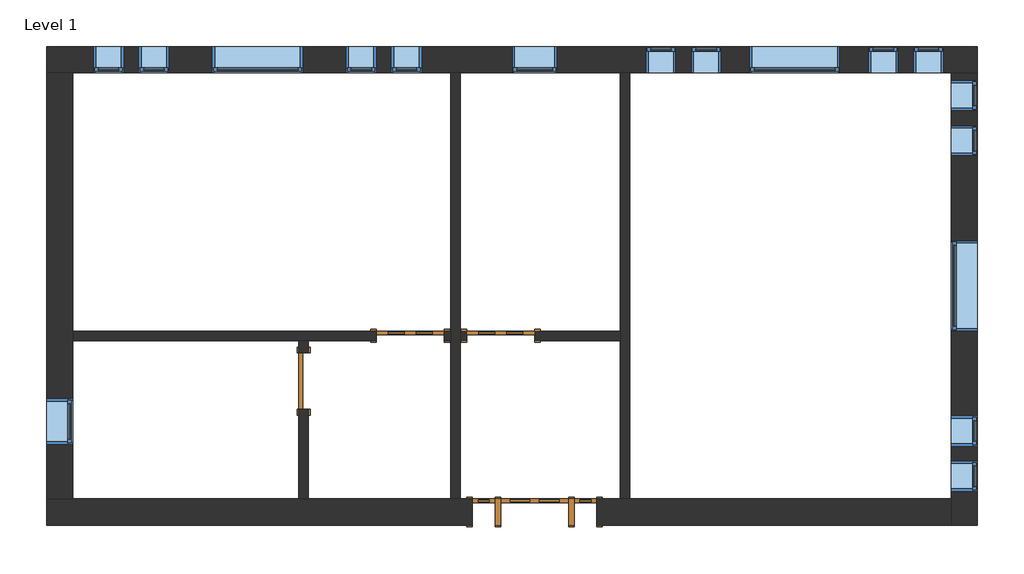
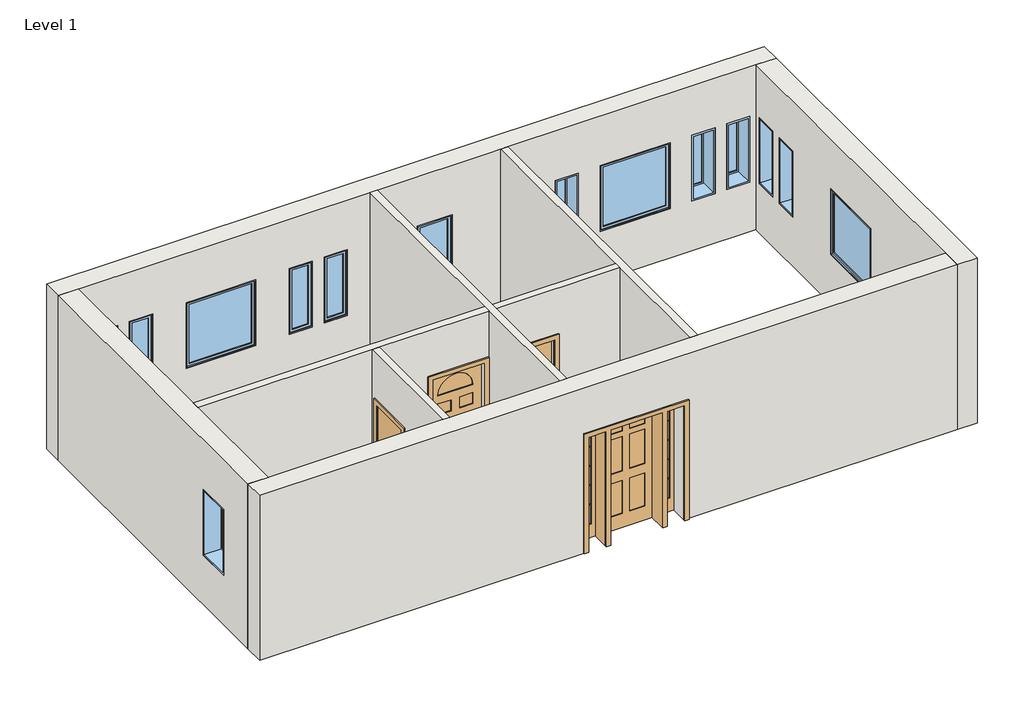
# One storey: 17 windows, 9 walls, 4 doors.
"""IFC4 building model written with IfcOpenShell, lengths in millimetres."""

from ifc_helpers import new_model, si_unit, frame, origin, place, context, project, spatial, polyline, outline, extrude, faceted_brep, transform, mapped, element, save
from components import door_829da954, door_2e3b4da2, door_4d6c7550, door_dba5aa2e, window_da97879f, window_d61ef850, window_60baf983, window_6eb97611

model = new_model("IFC4")

# Units and contexts
model_context = context("Model", 3, world=origin())
ifc_project = project(units=[si_unit("LENGTHUNIT", "METRE", prefix="MILLI")], contexts=[model_context])

# Site, building, storey
site = spatial("IfcSite", under=ifc_project)
building = spatial("IfcBuilding", under=site)
storey = spatial("IfcBuildingStorey", under=building, Name="Level 1", Elevation=0.0)

# Doors
placement = place(None, origin())
door_shape = door_829da954(model_context)
element("IfcDoor", 1, ObjectType="Single-Decorative 2 : 36\" x 84\"", at=placement, inside=storey, context=model_context, shape_type="MappedRepresentation", body=[
    mapped(door_shape, transform((-5449.8589563, 6723.5441867, 0.0), x_axis=(-1.0, 0.0, 0.0), y_axis=(0.0, -1.0, 0.0), z_axis=(0.0, 0.0, 1.0))),
])
door_2_shape = door_2e3b4da2(model_context)
element("IfcDoor", 2, ObjectType="Single-Decorative 2 : 36\" x 84\"", at=placement, inside=storey, context=model_context, shape_type="MappedRepresentation", body=[
    mapped(door_2_shape, transform((-6669.0589563, 6723.5441867, 0.0), x_axis=(1.0, 0.0, 0.0), y_axis=(0.0, 1.0, 0.0), z_axis=(0.0, 0.0, 1.0))),
])
door_3_shape = door_4d6c7550(model_context)
element("IfcDoor", 3, ObjectType="Single-Flush : 30\" x 84\"", at=placement, inside=storey, context=model_context, shape_type="MappedRepresentation", body=[
    mapped(door_3_shape, transform((-8105.7464563, 6113.9441867, 0.0), x_axis=(0.0, 1.0, 0.0), y_axis=(-1.0, 0.0, 0.0), z_axis=(0.0, 0.0, 1.0))),
])
door_4_shape = door_dba5aa2e(model_context)
element("IfcDoor", 4, ObjectType="Single-Raised Panel with Sidelights : 36\" x 84\"", at=placement, inside=storey, context=model_context, shape_type="MappedRepresentation", body=[
    mapped(door_4_shape, transform((-4992.6589563, 4350.2316867, 0.0), x_axis=(-1.0, 0.0, 0.0), y_axis=(0.0, -1.0, 0.0), z_axis=(0.0, 0.0, 1.0))),
])

# Walls
element("IfcWall", 5, ObjectType="Exterior - Brick on Mtl. Stud", at=placement, inside=storey, context=model_context, shape_type="Brep", body=[
    faceted_brep([(974.7535437, 10270.0191867, 0.0), (622.3285437, 10270.0191867, 0.0), (-3709.9589563, 10270.0191867, 0.0), (-3836.9589563, 10270.0191867, 0.0), (-5995.9589563, 10270.0191867, 0.0), (-6122.9589563, 10270.0191867, 0.0), (-11217.2464563, 10270.0191867, 0.0), (-11569.6714563, 10270.0191867, 0.0), (-11569.6714563, 10622.4441867, 0.0), (974.7535437, 10622.4441867, 0.0), (-11569.6714563, 10270.0191867, 3048.0), (-11217.2464563, 10270.0191867, 3048.0), (-6122.9589563, 10270.0191867, 3048.0), (-5995.9589563, 10270.0191867, 3048.0), (-3836.9589563, 10270.0191867, 3048.0), (-3709.9589563, 10270.0191867, 3048.0), (622.3285437, 10270.0191867, 3048.0), (974.7535437, 10270.0191867, 3048.0), (974.7535437, 10622.4441867, 3048.0), (-11569.6714563, 10622.4441867, 3048.0), (112.7410437, 10270.0191867, 2133.6), (519.1410437, 10270.0191867, 2133.6), (519.1410437, 10270.0191867, 914.4), (112.7410437, 10270.0191867, 914.4), (-496.8589563, 10270.0191867, 2133.6), (-90.4589563, 10270.0191867, 2133.6), (-90.4589563, 10270.0191867, 914.4), (-496.8589563, 10270.0191867, 914.4), (-3087.6589563, 10270.0191867, 2133.6), (-3087.6589563, 10270.0191867, 914.4), (-3494.0589563, 10270.0191867, 914.4), (-3494.0589563, 10270.0191867, 2133.6), (-2478.0589563, 10270.0191867, 2133.6), (-2478.0589563, 10270.0191867, 914.4), (-2884.4589563, 10270.0191867, 914.4), (-2884.4589563, 10270.0191867, 2133.6), (-7126.2589563, 10270.0191867, 2133.6), (-7126.2589563, 10270.0191867, 914.4), (-7532.6589563, 10270.0191867, 914.4), (-7532.6589563, 10270.0191867, 2133.6), (-6516.6589563, 10270.0191867, 2133.6), (-6516.6589563, 10270.0191867, 914.4), (-6923.0589563, 10270.0191867, 914.4), (-6923.0589563, 10270.0191867, 2133.6), (-10326.6589563, 10270.0191867, 2133.6), (-9920.2589563, 10270.0191867, 2133.6), (-9920.2589563, 10270.0191867, 914.4), (-10326.6589563, 10270.0191867, 914.4), (-10936.2589563, 10270.0191867, 2133.6), (-10529.8589563, 10270.0191867, 2133.6), (-10529.8589563, 10270.0191867, 914.4), (-10936.2589563, 10270.0191867, 914.4), (-2097.0589563, 10270.0191867, 2133.6), (-877.8589563, 10270.0191867, 2133.6), (-877.8589563, 10270.0191867, 914.4), (-2097.0589563, 10270.0191867, 914.4), (-9336.0589563, 10270.0191867, 2133.6), (-8116.8589563, 10270.0191867, 2133.6), (-8116.8589563, 10270.0191867, 914.4), (-9336.0589563, 10270.0191867, 914.4), (-5297.4589563, 10270.0191867, 2133.6), (-4687.8589563, 10270.0191867, 2133.6), (-4687.8589563, 10270.0191867, 914.4), (-5297.4589563, 10270.0191867, 914.4), (112.7410437, 10622.4441867, 2133.6), (112.7410437, 10622.4441867, 914.4), (519.1410437, 10622.4441867, 914.4), (519.1410437, 10622.4441867, 2133.6), (-496.8589563, 10622.4441867, 2133.6), (-496.8589563, 10622.4441867, 914.4), (-90.4589563, 10622.4441867, 914.4), (-90.4589563, 10622.4441867, 2133.6), (-3087.6589563, 10622.4441867, 2133.6), (-3494.0589563, 10622.4441867, 2133.6), (-3494.0589563, 10622.4441867, 914.4), (-3087.6589563, 10622.4441867, 914.4), (-2478.0589563, 10622.4441867, 2133.6), (-2884.4589563, 10622.4441867, 2133.6), (-2884.4589563, 10622.4441867, 914.4), (-2478.0589563, 10622.4441867, 914.4), (-7126.2589563, 10622.4441867, 2133.6), (-7532.6589563, 10622.4441867, 2133.6), (-7532.6589563, 10622.4441867, 914.4), (-7126.2589563, 10622.4441867, 914.4), (-6516.6589563, 10622.4441867, 2133.6), (-6923.0589563, 10622.4441867, 2133.6), (-6923.0589563, 10622.4441867, 914.4), (-6516.6589563, 10622.4441867, 914.4), (-10326.6589563, 10622.4441867, 2133.6), (-10326.6589563, 10622.4441867, 914.4), (-9920.2589563, 10622.4441867, 914.4), (-9920.2589563, 10622.4441867, 2133.6), (-10936.2589563, 10622.4441867, 2133.6), (-10936.2589563, 10622.4441867, 914.4), (-10529.8589563, 10622.4441867, 914.4), (-10529.8589563, 10622.4441867, 2133.6), (-2097.0589563, 10622.4441867, 2133.6), (-2097.0589563, 10622.4441867, 914.4), (-877.8589563, 10622.4441867, 914.4), (-877.8589563, 10622.4441867, 2133.6), (-9336.0589563, 10622.4441867, 2133.6), (-9336.0589563, 10622.4441867, 914.4), (-8116.8589563, 10622.4441867, 914.4), (-8116.8589563, 10622.4441867, 2133.6), (-5297.4589563, 10622.4441867, 2133.6), (-5297.4589563, 10622.4441867, 914.4), (-4687.8589563, 10622.4441867, 914.4), (-4687.8589563, 10622.4441867, 2133.6)], [[[0, 1, 2, 3, 4, 5, 6, 7, 8, 9]], [[10, 11, 12, 13, 14, 15, 16, 17, 18, 19]], [[7, 6, 5, 4, 3, 2, 1, 0, 17, 16, 15, 14, 13, 12, 11, 10], [20, 21, 22, 23], [24, 25, 26, 27], [28, 29, 30, 31], [32, 33, 34, 35], [36, 37, 38, 39], [40, 41, 42, 43], [44, 45, 46, 47], [48, 49, 50, 51], [52, 53, 54, 55], [56, 57, 58, 59], [60, 61, 62, 63]], [[8, 19, 18, 9], [64, 65, 66, 67], [68, 69, 70, 71], [72, 73, 74, 75], [76, 77, 78, 79], [80, 81, 82, 83], [84, 85, 86, 87], [88, 89, 90, 91], [92, 93, 94, 95], [96, 97, 98, 99], [100, 101, 102, 103], [104, 105, 106, 107]], [[17, 0, 9, 18]], [[7, 10, 19, 8]], [[65, 64, 20, 23]], [[66, 65, 23, 22]], [[67, 66, 22, 21]], [[64, 67, 21, 20]], [[69, 68, 24, 27]], [[70, 69, 27, 26]], [[71, 70, 26, 25]], [[68, 71, 25, 24]], [[29, 28, 72, 75]], [[30, 29, 75, 74]], [[31, 30, 74, 73]], [[28, 31, 73, 72]], [[33, 32, 76, 79]], [[34, 33, 79, 78]], [[35, 34, 78, 77]], [[32, 35, 77, 76]], [[37, 36, 80, 83]], [[38, 37, 83, 82]], [[39, 38, 82, 81]], [[36, 39, 81, 80]], [[41, 40, 84, 87]], [[42, 41, 87, 86]], [[43, 42, 86, 85]], [[40, 43, 85, 84]], [[89, 88, 44, 47]], [[90, 89, 47, 46]], [[91, 90, 46, 45]], [[88, 91, 45, 44]], [[93, 92, 48, 51]], [[94, 93, 51, 50]], [[95, 94, 50, 49]], [[92, 95, 49, 48]], [[97, 96, 52, 55]], [[98, 97, 55, 54]], [[99, 98, 54, 53]], [[96, 99, 53, 52]], [[101, 100, 56, 59]], [[102, 101, 59, 58]], [[103, 102, 58, 57]], [[100, 103, 57, 56]], [[105, 104, 60, 63]], [[106, 105, 63, 62]], [[107, 106, 62, 61]], [[104, 107, 61, 60]]]),
])
element("IfcWall", 6, ObjectType="Exterior - Brick on Mtl. Stud", at=placement, inside=storey, context=model_context, shape_type="Brep", body=[
    faceted_brep([(622.3285437, 4174.0191867, 0.0), (622.3285437, 4526.4441867, 0.0), (622.3285437, 10270.0191867, 0.0), (974.7535437, 10270.0191867, 0.0), (974.7535437, 4174.0191867, 0.0), (622.3285437, 10270.0191867, 3048.0), (622.3285437, 4526.4441867, 3048.0), (622.3285437, 4174.0191867, 3048.0), (974.7535437, 4174.0191867, 3048.0), (974.7535437, 10270.0191867, 3048.0), (622.3285437, 5036.0316867, 2133.6), (622.3285437, 4629.6316867, 2133.6), (622.3285437, 4629.6316867, 914.4), (622.3285437, 5036.0316867, 914.4), (622.3285437, 5645.6316867, 2133.6), (622.3285437, 5239.2316867, 2133.6), (622.3285437, 5239.2316867, 914.4), (622.3285437, 5645.6316867, 914.4), (622.3285437, 9760.4316867, 2133.6), (622.3285437, 9760.4316867, 914.4), (622.3285437, 10166.8316867, 914.4), (622.3285437, 10166.8316867, 2133.6), (622.3285437, 9150.8316867, 2133.6), (622.3285437, 9150.8316867, 914.4), (622.3285437, 9557.2316867, 914.4), (622.3285437, 9557.2316867, 2133.6), (622.3285437, 8007.8316867, 2133.6), (622.3285437, 6788.6316867, 2133.6), (622.3285437, 6788.6316867, 914.4), (622.3285437, 8007.8316867, 914.4), (974.7535437, 5036.0316867, 2133.6), (974.7535437, 5036.0316867, 914.4), (974.7535437, 4629.6316867, 914.4), (974.7535437, 4629.6316867, 2133.6), (974.7535437, 5645.6316867, 2133.6), (974.7535437, 5645.6316867, 914.4), (974.7535437, 5239.2316867, 914.4), (974.7535437, 5239.2316867, 2133.6), (974.7535437, 9760.4316867, 2133.6), (974.7535437, 10166.8316867, 2133.6), (974.7535437, 10166.8316867, 914.4), (974.7535437, 9760.4316867, 914.4), (974.7535437, 9150.8316867, 2133.6), (974.7535437, 9557.2316867, 2133.6), (974.7535437, 9557.2316867, 914.4), (974.7535437, 9150.8316867, 914.4), (974.7535437, 8007.8316867, 2133.6), (974.7535437, 8007.8316867, 914.4), (974.7535437, 6788.6316867, 914.4), (974.7535437, 6788.6316867, 2133.6)], [[[0, 1, 2, 3, 4]], [[5, 6, 7, 8, 9]], [[2, 1, 0, 7, 6, 5], [10, 11, 12, 13], [14, 15, 16, 17], [18, 19, 20, 21], [22, 23, 24, 25], [26, 27, 28, 29]], [[3, 9, 8, 4], [30, 31, 32, 33], [34, 35, 36, 37], [38, 39, 40, 41], [42, 43, 44, 45], [46, 47, 48, 49]], [[2, 5, 9, 3]], [[7, 0, 4, 8]], [[31, 30, 10, 13]], [[32, 31, 13, 12]], [[33, 32, 12, 11]], [[30, 33, 11, 10]], [[35, 34, 14, 17]], [[36, 35, 17, 16]], [[37, 36, 16, 15]], [[34, 37, 15, 14]], [[19, 18, 38, 41]], [[20, 19, 41, 40]], [[21, 20, 40, 39]], [[18, 21, 39, 38]], [[23, 22, 42, 45]], [[24, 23, 45, 44]], [[25, 24, 44, 43]], [[22, 25, 43, 42]], [[47, 46, 26, 29]], [[48, 47, 29, 28]], [[49, 48, 28, 27]], [[46, 49, 27, 26]]]),
])
element("IfcWall", 7, ObjectType="Exterior - Brick on Mtl. Stud", at=placement, inside=storey, context=model_context, shape_type="Brep", body=[
    faceted_brep([(-11569.6714563, 4526.4441867, 0.0), (-11217.2464563, 4526.4441867, 0.0), (-8169.2464563, 4526.4441867, 0.0), (-8042.2464563, 4526.4441867, 0.0), (-6122.9589563, 4526.4441867, 0.0), (-5995.9589563, 4526.4441867, 0.0), (-5830.8589563, 4526.4441867, 0.0), (-5830.8589563, 4174.0191867, 0.0), (-11569.6714563, 4174.0191867, 0.0), (-4154.4589563, 4526.4441867, 0.0), (-3836.9589563, 4526.4441867, 0.0), (-3709.9589563, 4526.4441867, 0.0), (622.3285437, 4526.4441867, 0.0), (622.3285437, 4174.0191867, 0.0), (-4154.4589563, 4174.0191867, 0.0), (622.3285437, 4526.4441867, 3048.0), (-3709.9589563, 4526.4441867, 3048.0), (-3836.9589563, 4526.4441867, 3048.0), (-5995.9589563, 4526.4441867, 3048.0), (-6122.9589563, 4526.4441867, 3048.0), (-8042.2464563, 4526.4441867, 3048.0), (-8169.2464563, 4526.4441867, 3048.0), (-11217.2464563, 4526.4441867, 3048.0), (-11569.6714563, 4526.4441867, 3048.0), (-11569.6714563, 4174.0191867, 3048.0), (622.3285437, 4174.0191867, 3048.0), (-5830.8589563, 4526.4441867, 2133.6), (-4154.4589563, 4526.4441867, 2133.6), (-5830.8589563, 4174.0191867, 2133.6), (-4154.4589563, 4174.0191867, 2133.6)], [[[0, 1, 2, 3, 4, 5, 6, 7, 8]], [[9, 10, 11, 12, 13, 14]], [[15, 16, 17, 18, 19, 20, 21, 22, 23, 24, 25]], [[26, 6, 5, 4, 3, 2, 1, 0, 23, 22, 21, 20, 19, 18, 17, 16, 15, 12, 11, 10, 9, 27]], [[8, 7, 28, 29, 14, 13, 25, 24]], [[12, 15, 25, 13]], [[23, 0, 8, 24]], [[28, 7, 6, 26]], [[29, 28, 26, 27]], [[14, 29, 27, 9]]]),
])
element("IfcWall", 8, ObjectType="Exterior - Brick on Mtl. Stud", at=placement, inside=storey, context=model_context, shape_type="Brep", body=[
    faceted_brep([(-11217.2464563, 10270.0191867, 0.0), (-11217.2464563, 6787.0441867, 0.0), (-11217.2464563, 6660.0441867, 0.0), (-11217.2464563, 4526.4441867, 0.0), (-11569.6714563, 4526.4441867, 0.0), (-11569.6714563, 10270.0191867, 0.0), (-11217.2464563, 4526.4441867, 3048.0), (-11217.2464563, 6660.0441867, 3048.0), (-11217.2464563, 6787.0441867, 3048.0), (-11217.2464563, 10270.0191867, 3048.0), (-11569.6714563, 10270.0191867, 3048.0), (-11569.6714563, 4526.4441867, 3048.0), (-11217.2464563, 5264.6316867, 2133.6), (-11217.2464563, 5874.2316867, 2133.6), (-11217.2464563, 5874.2316867, 914.4), (-11217.2464563, 5264.6316867, 914.4), (-11569.6714563, 5264.6316867, 2133.6), (-11569.6714563, 5264.6316867, 914.4), (-11569.6714563, 5874.2316867, 914.4), (-11569.6714563, 5874.2316867, 2133.6)], [[[0, 1, 2, 3, 4, 5]], [[6, 7, 8, 9, 10, 11]], [[3, 2, 1, 0, 9, 8, 7, 6], [12, 13, 14, 15]], [[4, 11, 10, 5], [16, 17, 18, 19]], [[3, 6, 11, 4]], [[9, 0, 5, 10]], [[17, 16, 12, 15]], [[18, 17, 15, 14]], [[19, 18, 14, 13]], [[16, 19, 13, 12]]]),
])
element("IfcWall", 9, ObjectType="Interior - 5\" Partition (2-hr)", at=placement, inside=storey, context=model_context, shape_type="Brep", body=[
    faceted_brep([(-3836.9589563, 10270.0191867, 0.0), (-3836.9589563, 6787.0441867, 0.0), (-3836.9589563, 6660.0441867, 0.0), (-3836.9589563, 4526.4441867, 0.0), (-3836.9589563, 4526.4441867, 3048.0), (-3836.9589563, 6660.0441867, 3048.0), (-3836.9589563, 6787.0441867, 3048.0), (-3836.9589563, 10270.0191867, 3048.0), (-3709.9589563, 10270.0191867, 0.0), (-3709.9589563, 10270.0191867, 3048.0), (-3709.9589563, 4526.4441867, 3048.0), (-3709.9589563, 4526.4441867, 0.0)], [[[0, 1, 2, 3, 4, 5, 6, 7]], [[8, 9, 10, 11]], [[3, 2, 1, 0, 8, 11]], [[7, 6, 5, 4, 10, 9]], [[0, 7, 9, 8]], [[4, 3, 11, 10]]]),
])
element("IfcWall", 10, ObjectType="Interior - 5\" Partition (2-hr)", at=placement, inside=storey, context=model_context, shape_type="Brep", body=[
    faceted_brep([(-6122.9589563, 10270.0191867, 0.0), (-6122.9589563, 6787.0441867, 0.0), (-6122.9589563, 6660.0441867, 0.0), (-6122.9589563, 4526.4441867, 0.0), (-6122.9589563, 4526.4441867, 3048.0), (-6122.9589563, 6660.0441867, 3048.0), (-6122.9589563, 6787.0441867, 3048.0), (-6122.9589563, 10270.0191867, 3048.0), (-5995.9589563, 10270.0191867, 0.0), (-5995.9589563, 10270.0191867, 3048.0), (-5995.9589563, 6787.0441867, 3048.0), (-5995.9589563, 6660.0441867, 3048.0), (-5995.9589563, 4526.4441867, 3048.0), (-5995.9589563, 4526.4441867, 0.0), (-5995.9589563, 6660.0441867, 0.0), (-5995.9589563, 6787.0441867, 0.0)], [[[0, 1, 2, 3, 4, 5, 6, 7]], [[8, 9, 10, 11, 12, 13, 14, 15]], [[3, 2, 1, 0, 8, 15, 14, 13]], [[7, 6, 5, 4, 12, 11, 10, 9]], [[0, 7, 9, 8]], [[4, 3, 13, 12]]]),
])
element("IfcWall", 11, ObjectType="Interior - 5\" Partition (2-hr)", at=placement, inside=storey, context=model_context, shape_type="Brep", body=[
    faceted_brep([(-6122.9589563, 6660.0441867, 0.0), (-6211.8589563, 6660.0441867, 0.0), (-6211.8589563, 6787.0441867, 0.0), (-6122.9589563, 6787.0441867, 0.0), (-7126.2589563, 6660.0441867, 0.0), (-8042.2464563, 6660.0441867, 0.0), (-8169.2464563, 6660.0441867, 0.0), (-11217.2464563, 6660.0441867, 0.0), (-11217.2464563, 6787.0441867, 0.0), (-7126.2589563, 6787.0441867, 0.0), (-11217.2464563, 6660.0441867, 3048.0), (-8169.2464563, 6660.0441867, 3048.0), (-8042.2464563, 6660.0441867, 3048.0), (-6122.9589563, 6660.0441867, 3048.0), (-6122.9589563, 6787.0441867, 3048.0), (-11217.2464563, 6787.0441867, 3048.0), (-6211.8589563, 6660.0441867, 2133.6), (-7126.2589563, 6660.0441867, 2133.6), (-6211.8589563, 6787.0441867, 2133.6), (-7126.2589563, 6787.0441867, 2133.6)], [[[0, 1, 2, 3]], [[4, 5, 6, 7, 8, 9]], [[10, 11, 12, 13, 14, 15]], [[16, 1, 0, 13, 12, 11, 10, 7, 6, 5, 4, 17]], [[3, 2, 18, 19, 9, 8, 15, 14]], [[7, 10, 15, 8]], [[13, 0, 3, 14]], [[18, 2, 1, 16]], [[19, 18, 16, 17]], [[9, 19, 17, 4]]]),
])
element("IfcWall", 12, ObjectType="Interior - 5\" Partition (2-hr)", at=placement, inside=storey, context=model_context, shape_type="SweptSolid", body=[
    extrude(outline(polyline([(6660.0441867, 0.0), (6494.9441867, 0.0), (6494.9441867, 2133.6), (5732.9441867, 2133.6), (5732.9441867, 0.0), (4526.4441867, 0.0), (4526.4441867, 3048.0), (6660.0441867, 3048.0), (6660.0441867, 0.0)])), frame((-8169.2464563, 0.0, 0.0), z_axis=(1.0, 0.0, 0.0), x_axis=(0.0, 1.0, 0.0)), (0.0, 0.0, 1.0), 127.0),
])
element("IfcWall", 13, ObjectType="Interior - 5\" Partition (2-hr)", at=placement, inside=storey, context=model_context, shape_type="SweptSolid", body=[
    extrude(outline(polyline([(0.0, -5995.9589563), (0.0, -5907.0589563), (2133.6, -5907.0589563), (2133.6, -4992.6589563), (0.0, -4992.6589563), (0.0, -3836.9589563), (3048.0, -3836.9589563), (3048.0, -5995.9589563), (0.0, -5995.9589563)])), frame((0.0, 6660.0441867, 0.0), z_axis=(0.0, 1.0, 0.0), x_axis=(0.0, 0.0, 1.0)), (0.0, 0.0, 1.0), 127.0),
])

# Windows
window_shape = window_da97879f(model_context)
element("IfcWindow", 14, ObjectType="Fixed : 16\" x 48\"", at=placement, inside=storey, context=model_context, shape_type="MappedRepresentation", body=[
    mapped(window_shape, transform((-10771.1589563, 10446.2316867, 0.0), x_axis=(-1.0, 0.0, 0.0), y_axis=(0.0, -1.0, 0.0), z_axis=(0.0, 0.0, 1.0))),
])
element("IfcWindow", 15, ObjectType="Fixed : 16\" x 48\"", at=placement, inside=storey, context=model_context, shape_type="MappedRepresentation", body=[
    mapped(window_shape, transform((-10161.5589563, 10446.2316867, 0.0), x_axis=(-1.0, 0.0, 0.0), y_axis=(0.0, -1.0, 0.0), z_axis=(0.0, 0.0, 1.0))),
])
element("IfcWindow", 16, ObjectType="Fixed : 16\" x 48\"", at=placement, inside=storey, context=model_context, shape_type="MappedRepresentation", body=[
    mapped(window_shape, transform((-2643.1589563, 10446.2316867, 0.0), x_axis=(1.0, 0.0, 0.0), y_axis=(0.0, 1.0, 0.0), z_axis=(0.0, 0.0, 1.0))),
])
element("IfcWindow", 17, ObjectType="Fixed : 16\" x 48\"", at=placement, inside=storey, context=model_context, shape_type="MappedRepresentation", body=[
    mapped(window_shape, transform((-3252.7589563, 10446.2316867, 0.0), x_axis=(1.0, 0.0, 0.0), y_axis=(0.0, 1.0, 0.0), z_axis=(0.0, 0.0, 1.0))),
])
element("IfcWindow", 18, ObjectType="Fixed : 16\" x 48\"", at=placement, inside=storey, context=model_context, shape_type="MappedRepresentation", body=[
    mapped(window_shape, transform((798.5410437, 9315.9316867, 0.0), x_axis=(0.0, -1.0, 0.0), y_axis=(1.0, 0.0, 0.0), z_axis=(0.0, 0.0, 1.0))),
])
element("IfcWindow", 19, ObjectType="Fixed : 16\" x 48\"", at=placement, inside=storey, context=model_context, shape_type="MappedRepresentation", body=[
    mapped(window_shape, transform((798.5410437, 9925.5316867, 0.0), x_axis=(0.0, -1.0, 0.0), y_axis=(1.0, 0.0, 0.0), z_axis=(0.0, 0.0, 1.0))),
])
window_2_shape = window_d61ef850(model_context)
element("IfcWindow", 20, ObjectType="Fixed : 16\" x 48\"", at=placement, inside=storey, context=model_context, shape_type="MappedRepresentation", body=[
    mapped(window_2_shape, transform((-6681.7589563, 10446.2316867, 0.0), x_axis=(1.0, 0.0, 0.0), y_axis=(0.0, 1.0, 0.0), z_axis=(0.0, 0.0, 1.0))),
])
element("IfcWindow", 21, ObjectType="Fixed : 16\" x 48\"", at=placement, inside=storey, context=model_context, shape_type="MappedRepresentation", body=[
    mapped(window_2_shape, transform((-7291.3589563, 10446.2316867, 0.0), x_axis=(1.0, 0.0, 0.0), y_axis=(0.0, 1.0, 0.0), z_axis=(0.0, 0.0, 1.0))),
])
element("IfcWindow", 22, ObjectType="Fixed : 16\" x 48\"", at=placement, inside=storey, context=model_context, shape_type="MappedRepresentation", body=[
    mapped(window_2_shape, transform((-331.7589563, 10446.2316867, 0.0), x_axis=(-1.0, 0.0, 0.0), y_axis=(0.0, -1.0, 0.0), z_axis=(0.0, 0.0, 1.0))),
])
element("IfcWindow", 23, ObjectType="Fixed : 16\" x 48\"", at=placement, inside=storey, context=model_context, shape_type="MappedRepresentation", body=[
    mapped(window_2_shape, transform((277.8410437, 10446.2316867, 0.0), x_axis=(-1.0, 0.0, 0.0), y_axis=(0.0, -1.0, 0.0), z_axis=(0.0, 0.0, 1.0))),
])
element("IfcWindow", 24, ObjectType="Fixed : 16\" x 48\"", at=placement, inside=storey, context=model_context, shape_type="MappedRepresentation", body=[
    mapped(window_2_shape, transform((798.5410437, 5480.5316867, 0.0), x_axis=(0.0, 1.0, 0.0), y_axis=(-1.0, 0.0, 0.0), z_axis=(0.0, 0.0, 1.0))),
])
element("IfcWindow", 25, ObjectType="Fixed : 16\" x 48\"", at=placement, inside=storey, context=model_context, shape_type="MappedRepresentation", body=[
    mapped(window_2_shape, transform((798.5410437, 4870.9316867, 0.0), x_axis=(0.0, 1.0, 0.0), y_axis=(-1.0, 0.0, 0.0), z_axis=(0.0, 0.0, 1.0))),
])
window_3_shape = window_60baf983(model_context)
element("IfcWindow", 26, ObjectType="Fixed : 24\" x 48\"", at=placement, inside=storey, context=model_context, shape_type="MappedRepresentation", body=[
    mapped(window_3_shape, transform((-5030.7589563, 10446.2316867, 0.0), x_axis=(-1.0, 0.0, 0.0), y_axis=(0.0, -1.0, 0.0), z_axis=(0.0, 0.0, 1.0))),
])
element("IfcWindow", 27, ObjectType="Fixed : 24\" x 48\"", at=placement, inside=storey, context=model_context, shape_type="MappedRepresentation", body=[
    mapped(window_3_shape, transform((-11393.4589563, 5531.3316867, 0.0), x_axis=(0.0, -1.0, 0.0), y_axis=(1.0, 0.0, 0.0), z_axis=(0.0, 0.0, 1.0))),
])
window_4_shape = window_6eb97611(model_context)
element("IfcWindow", 28, ObjectType="Fixed : 48\" x 48\"", at=placement, inside=storey, context=model_context, shape_type="MappedRepresentation", body=[
    mapped(window_4_shape, transform((-8764.5589563, 10446.2316867, 0.0), x_axis=(-1.0, 0.0, 0.0), y_axis=(0.0, -1.0, 0.0), z_axis=(0.0, 0.0, 1.0))),
])
element("IfcWindow", 29, ObjectType="Fixed : 48\" x 48\"", at=placement, inside=storey, context=model_context, shape_type="MappedRepresentation", body=[
    mapped(window_4_shape, transform((-1525.5589563, 10446.2316867, 0.0), x_axis=(-1.0, 0.0, 0.0), y_axis=(0.0, -1.0, 0.0), z_axis=(0.0, 0.0, 1.0))),
])
element("IfcWindow", 30, ObjectType="Fixed : 48\" x 48\"", at=placement, inside=storey, context=model_context, shape_type="MappedRepresentation", body=[
    mapped(window_4_shape, transform((798.5410437, 7436.3316867, 0.0), x_axis=(0.0, 1.0, 0.0), y_axis=(-1.0, 0.0, 0.0), z_axis=(0.0, 0.0, 1.0))),
])

save(model, "model.ifc")
